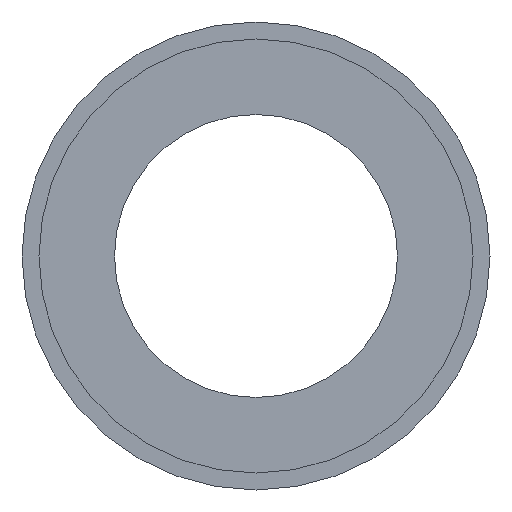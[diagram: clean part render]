
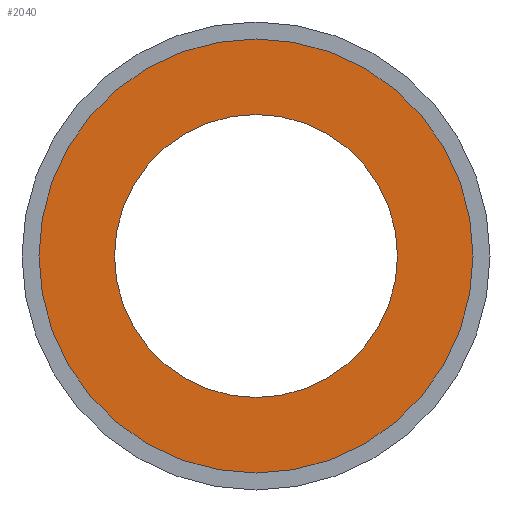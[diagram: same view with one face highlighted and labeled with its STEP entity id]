
A CAD part, front view. The second image highlights one B-rep face of the part: STEP entity #2040.
In plain terms, the highlighted planar face has unit normal (0, -1, 0).
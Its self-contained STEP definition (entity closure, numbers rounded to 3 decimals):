
#214 = AXIS2_PLACEMENT_3D ( 'NONE', #1230, #3492, #2642 ) ;
#223 = CIRCLE ( 'NONE', #1323, 37.5 ) ;
#243 = EDGE_LOOP ( 'NONE', ( #415, #1234 ) ) ;
#327 = CARTESIAN_POINT ( 'NONE',  ( 0., -20., -57.5 ) ) ;
#368 = CARTESIAN_POINT ( 'NONE',  ( 0., -20., 0. ) ) ;
#415 = ORIENTED_EDGE ( 'NONE', *, *, #2693, .T. ) ;
#602 = DIRECTION ( 'NONE',  ( 0., 1., 0. ) ) ;
#608 = VERTEX_POINT ( 'NONE', #2704 ) ;
#829 = CARTESIAN_POINT ( 'NONE',  ( 0., -20., 0. ) ) ;
#838 = VERTEX_POINT ( 'NONE', #2234 ) ;
#893 = PLANE ( 'NONE',  #2555 ) ;
#900 = CIRCLE ( 'NONE', #3499, 57.5 ) ;
#1132 = CARTESIAN_POINT ( 'NONE',  ( 0., -20., 0. ) ) ;
#1230 = CARTESIAN_POINT ( 'NONE',  ( 0., -20., 0. ) ) ;
#1234 = ORIENTED_EDGE ( 'NONE', *, *, #3718, .T. ) ;
#1263 = DIRECTION ( 'NONE',  ( 0., 0., -1. ) ) ;
#1308 = CARTESIAN_POINT ( 'NONE',  ( 0., -20., -37.5 ) ) ;
#1323 = AXIS2_PLACEMENT_3D ( 'NONE', #829, #2001, #3407 ) ;
#1451 = VERTEX_POINT ( 'NONE', #327 ) ;
#1508 = VERTEX_POINT ( 'NONE', #1308 ) ;
#1827 = AXIS2_PLACEMENT_3D ( 'NONE', #1132, #3135, #1963 ) ;
#1963 = DIRECTION ( 'NONE',  ( 0., 0., -1. ) ) ;
#2001 = DIRECTION ( 'NONE',  ( 0., -1., 0. ) ) ;
#2040 = ADVANCED_FACE ( 'NONE', ( #2074, #3103 ), #893, .F. ) ;
#2074 = FACE_BOUND ( 'NONE', #2260, .T. ) ;
#2120 = CIRCLE ( 'NONE', #214, 57.5 ) ;
#2234 = CARTESIAN_POINT ( 'NONE',  ( 0., -20., 37.5 ) ) ;
#2236 = CIRCLE ( 'NONE', #1827, 37.5 ) ;
#2260 = EDGE_LOOP ( 'NONE', ( #3534, #2349 ) ) ;
#2310 = CARTESIAN_POINT ( 'NONE',  ( 0., -20., 37.5 ) ) ;
#2349 = ORIENTED_EDGE ( 'NONE', *, *, #2458, .F. ) ;
#2458 = EDGE_CURVE ( 'NONE', #838, #1508, #223, .T. ) ;
#2503 = EDGE_CURVE ( 'NONE', #1508, #838, #2236, .T. ) ;
#2555 = AXIS2_PLACEMENT_3D ( 'NONE', #2310, #602, #3674 ) ;
#2642 = DIRECTION ( 'NONE',  ( 0., 0., -1. ) ) ;
#2693 = EDGE_CURVE ( 'NONE', #1451, #608, #900, .T. ) ;
#2704 = CARTESIAN_POINT ( 'NONE',  ( 0., -20., 57.5 ) ) ;
#2706 = DIRECTION ( 'NONE',  ( 0., -1., 0. ) ) ;
#3103 = FACE_OUTER_BOUND ( 'NONE', #243, .T. ) ;
#3135 = DIRECTION ( 'NONE',  ( 0., -1., 0. ) ) ;
#3407 = DIRECTION ( 'NONE',  ( 0., 0., -1. ) ) ;
#3492 = DIRECTION ( 'NONE',  ( 0., -1., 0. ) ) ;
#3499 = AXIS2_PLACEMENT_3D ( 'NONE', #368, #2706, #1263 ) ;
#3534 = ORIENTED_EDGE ( 'NONE', *, *, #2503, .F. ) ;
#3674 = DIRECTION ( 'NONE',  ( 0., 0., 1. ) ) ;
#3718 = EDGE_CURVE ( 'NONE', #608, #1451, #2120, .T. ) ;
